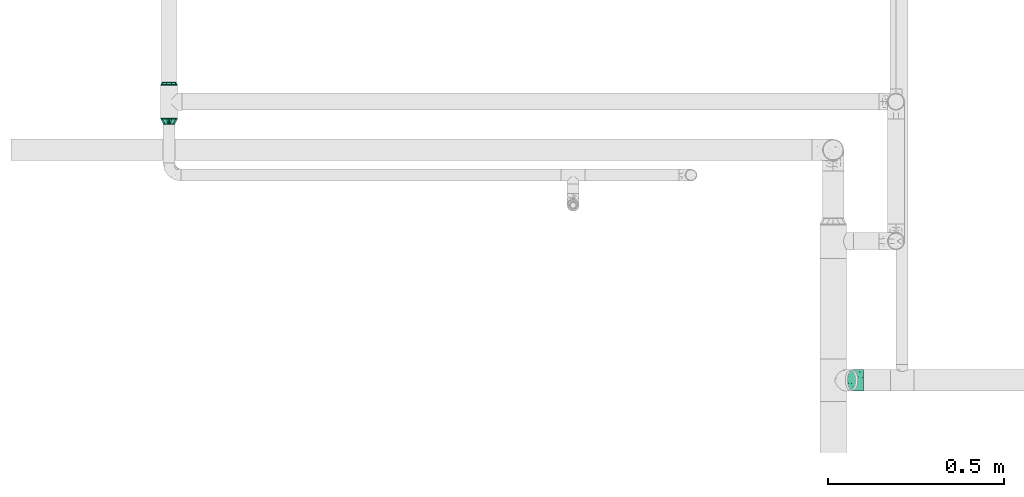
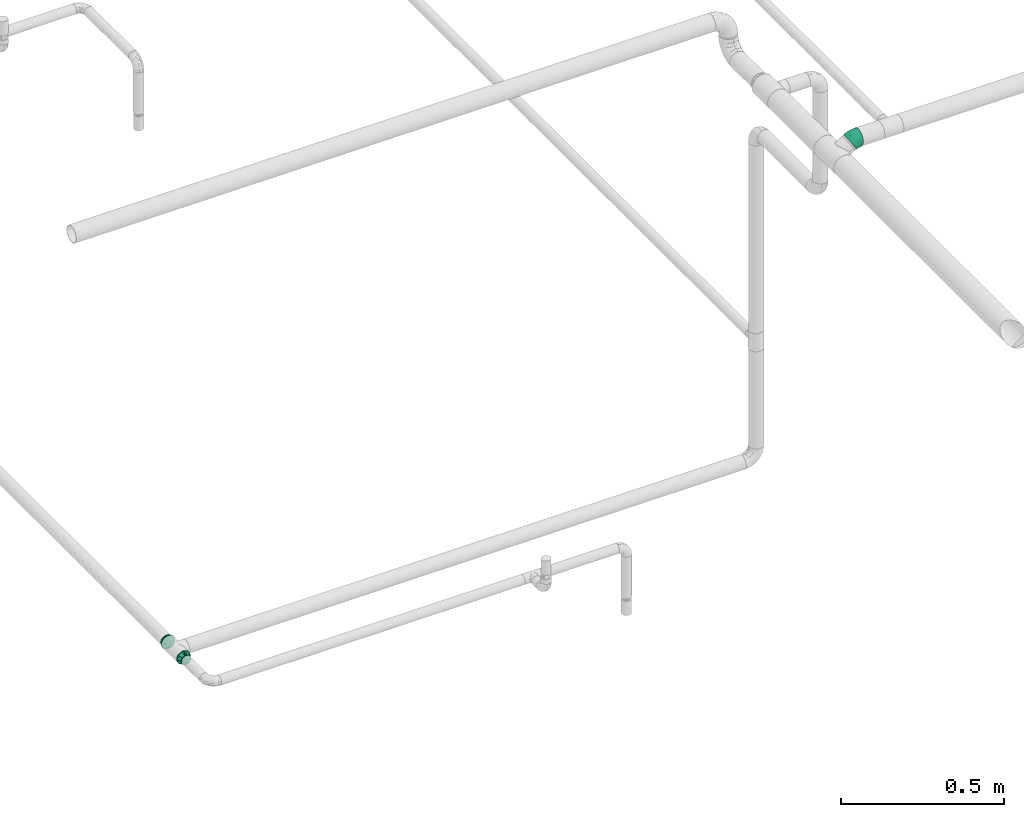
# One storey, part 91 of 95: 3 flow fittings.
"""IFC2X3 building model written with IfcOpenShell, lengths in millimetres."""

from ifc_helpers import new_model, entity, si_unit, converted_unit, derived_unit, direction, frame, origin_with_axes, place, context, subcontext, project, spatial, open_shell, surface_model, source, transform, mapped, type_object, element, save


model = new_model("IFC2X3")

# Units and contexts
model_context = context("Model", 3, precision=0.01, world=frame((0.0, 4.29681676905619e-09, 0.0)), true_north=direction((4.01073788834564e-13, 1.0)))
plan_context = context("Plan", 3, precision=0.01, world=frame((0.0, 4.29681676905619e-09, 0.0)), true_north=direction((4.01073788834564e-13, 1.0)))
body_context = subcontext(model_context, "Body", "Model", "MODEL_VIEW")
ifc_project = project(units=[converted_unit("PLANEANGLEUNIT", "DEGREE", entity("IfcPositiveLengthMeasure", 0.0174532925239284), si_unit("PLANEANGLEUNIT", "RADIAN"), dimensions=[0, 0, 0, 0, 0, 0, 0]), si_unit("AREAUNIT", "SQUARE_METRE"), si_unit("LENGTHUNIT", "METRE", prefix="MILLI"), si_unit("MASSUNIT", "GRAM", prefix="KILO"), si_unit("POWERUNIT", "WATT"), si_unit("PRESSUREUNIT", "PASCAL"), si_unit("FORCEUNIT", "NEWTON", prefix="KILO"), si_unit("ELECTRICVOLTAGEUNIT", "VOLT"), si_unit("ELECTRICCURRENTUNIT", "AMPERE"), si_unit("THERMODYNAMICTEMPERATUREUNIT", "DEGREE_CELSIUS"), si_unit("TIMEUNIT", "SECOND"), si_unit("VOLUMEUNIT", "CUBIC_METRE"), derived_unit("LINEARVELOCITYUNIT", [(si_unit("LENGTHUNIT", "METRE"), 1), (si_unit("TIMEUNIT", "SECOND"), -1)]), derived_unit("VOLUMETRICFLOWRATEUNIT", [(si_unit("VOLUMEUNIT", "CUBIC_METRE"), 1), (si_unit("TIMEUNIT", "SECOND"), -1)]), derived_unit("THERMALTRANSMITTANCEUNIT", [(si_unit("POWERUNIT", "WATT"), 1), (si_unit("THERMODYNAMICTEMPERATUREUNIT", "KELVIN"), -1), (si_unit("AREAUNIT", "SQUARE_METRE"), -1)]), derived_unit("SOUNDPRESSUREUNIT", [(si_unit("PRESSUREUNIT", "PASCAL"), 1)])], contexts=[model_context, plan_context])

# Site, building, storey
site_placement = place(None, frame((0.0, -4.29681676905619e-09, 0.0), z_axis=(0.0, 0.0, 1.0), x_axis=(1.0, 0.0, 0.0)))
site = spatial("IfcSite", under=ifc_project, at=site_placement, CompositionType="ELEMENT")
building_placement = place(site_placement, frame((0.0, 4.29681676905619e-09, 0.0), z_axis=(0.0, 0.0, 1.0), x_axis=(1.0, 0.0, 0.0)))
building = spatial("IfcBuilding", under=site, at=building_placement, Name="mc-building", CompositionType="ELEMENT")
storey_placement = place(building_placement, frame((0.0, 0.0, 210900.0), z_axis=(0.0, 0.0, 1.0), x_axis=(1.0, 0.0, 0.0)))
storey = spatial("IfcBuildingStorey", under=building, at=storey_placement, Name="Nivå F", CompositionType="ELEMENT", Elevation=210900.0)

# Flow fittings
pipe_fitting_type_1 = type_object("IfcPipeFittingType", Name="magi_pipe_fe_elbow_short_001", PredefinedType="BEND")
shared_shape_1 = source(origin_with_axes(), body_context, "Body", "SurfaceModel", [
    surface_model("IfcShellBasedSurfaceModel", [(-16.18413, 15.1, -26.15397), (-16.18413, 7.81634, -29.17096), (-16.18413, 0.0, -30.2), (-16.18413, -29.17096, -7.81634), (-16.18413, -21.35462, 21.35462), (-16.18413, 29.17096, -7.81634), (-16.18413, 26.15397, -15.1), (-16.18413, 21.35462, -21.35462), (-16.18413, -15.1, -26.15397), (-16.18413, -21.35462, -21.35462), (-16.18413, -7.81634, -29.17096), (-16.18413, -26.15397, -15.1), (-16.18413, -30.2, 0.0), (-16.18413, -29.17096, 7.81634), (-16.18413, 30.2, 0.0), (-16.18413, 29.17096, 7.81634), (-16.18413, 26.15397, 15.1), (-16.18413, 7.81634, 29.17096), (-16.18413, 15.1, 26.15397), (-16.18413, 21.35462, 21.35462), (-16.18413, -26.15397, 15.1), (-16.18413, -7.81634, 29.17096), (-16.18413, 0.0, 30.2), (-16.18413, -15.1, 26.15397), (14.01587, 8.09207, -30.2), (10.1077, 14.86121, -29.17096), (6.46587, 21.16905, -26.15397), (0.93889, 30.74206, -15.1), (3.33856, 26.58571, -21.35462), (27.09285, -14.55793, -15.1), (29.11587, -18.0619, 0.0), (28.60135, -17.17073, -7.81634), (3.33856, 26.58571, 21.35462), (6.46587, 21.16905, 26.15397), (10.1077, 14.86121, 29.17096), (0.93889, 30.74206, 15.1), (28.60135, -17.17073, 7.81634), (24.69318, -10.40158, 21.35462), (27.09285, -14.55793, 15.1), (21.56587, -4.98492, 26.15397), (14.01587, 8.09207, 30.2), (17.92404, 1.32292, 29.17096), (5.78126, -21.57597, 17.70222), (-0.87185, -17.35595, 23.59541), (2.61604, -9.7632, 27.60913), (-2.08089, -2.9591, 29.86138), (-0.45314, -26.72255, 10.98482), (0.07401, -28.2045, 5.56004), (11.40781, -25.34383, 5.61212), (-1.40946, 5.26019, 30.0175), (-6.67831, 24.92378, 18.75264), (-5.20194, 19.41389, 24.27321), (12.91423, -13.19239, 23.68525), (-3.3408, 12.72477, 28.11559), (-8.3678, 31.22904, 0.0), (-0.56961, 33.35486, 7.81634), (7.26487, -27.11288, 0.0), (15.20509, -23.82393, 0.0), (-1.25603, -28.23468, 0.0), (15.32196, -22.30983, 11.04614), (-1.08413, 34.24603, 0.0), (0.64461, -2.40571, -29.84433), (-2.58474, 5.01088, -30.01185), (17.92404, 1.32292, -29.17096), (21.56587, -4.98492, -26.15397), (6.50296, -8.44945, -27.67394), (-6.67831, 24.92378, -18.75264), (5.47475, -25.52922, -10.76346), (-5.32129, -28.07324, -9.28381), (-3.19451, -23.25749, -17.98597), (-5.20194, 19.41389, -24.27321), (17.22168, -20.98325, -12.32035), (15.70883, -23.62594, -6.57747), (-0.56961, 33.35486, -7.81634), (24.69318, -10.40158, -21.35462), (11.89901, -19.53142, -17.90294), (-3.46666, -13.74895, -26.30707), (4.36862, -16.30392, -23.46635), (-3.53112, 12.67665, -28.11455), (2.80976, -27.69441, -5.36977)], [open_shell([[[0, 1, 2]], [[2, 3, 4]], [[0, 5, 6]], [[7, 0, 6]], [[2, 4, 0]], [[8, 9, 10]], [[9, 2, 10]], [[11, 3, 9]], [[9, 3, 2]], [[12, 13, 3]], [[5, 0, 4]], [[14, 4, 15]], [[16, 15, 17]], [[17, 18, 19]], [[16, 17, 19]], [[17, 15, 4]], [[20, 4, 13]], [[13, 4, 3]], [[21, 22, 23]], [[17, 4, 23]], [[17, 23, 22]], [[14, 5, 4]], [[24, 25, 26]], [[27, 26, 28]], [[29, 30, 31]], [[32, 33, 34]], [[32, 34, 35]], [[36, 37, 38]], [[39, 40, 41]], [[20, 42, 4]], [[43, 44, 23]], [[23, 4, 43]], [[38, 37, 42]], [[22, 21, 45]], [[21, 23, 44]], [[46, 47, 48]], [[45, 49, 22]], [[22, 49, 17]], [[40, 34, 49]], [[42, 20, 46]], [[39, 41, 44]], [[19, 50, 16]], [[51, 19, 18]], [[52, 42, 37]], [[4, 42, 43]], [[17, 53, 18]], [[54, 15, 55]], [[20, 13, 46]], [[54, 14, 15]], [[55, 15, 16]], [[21, 44, 45]], [[17, 49, 53]], [[51, 53, 33]], [[47, 56, 48]], [[57, 48, 56]], [[45, 40, 49]], [[39, 52, 37]], [[12, 58, 47]], [[45, 41, 40]], [[42, 52, 43]], [[46, 59, 42]], [[32, 35, 50]], [[43, 52, 44]], [[44, 52, 39]], [[30, 36, 57]], [[13, 47, 46]], [[51, 50, 19]], [[35, 55, 16]], [[60, 54, 55]], [[48, 36, 59]], [[42, 59, 38]], [[36, 48, 57]], [[34, 53, 49]], [[33, 32, 51]], [[32, 50, 51]], [[12, 47, 13]], [[16, 50, 35]], [[34, 33, 53]], [[53, 51, 18]], [[46, 48, 59]], [[38, 59, 36]], [[56, 47, 58]], [[41, 45, 44]], [[2, 61, 10]], [[24, 62, 25]], [[63, 64, 65]], [[61, 2, 62]], [[66, 7, 6]], [[67, 68, 69]], [[7, 66, 70]], [[71, 31, 72]], [[73, 6, 5]], [[74, 29, 75]], [[76, 65, 77]], [[1, 78, 62]], [[79, 68, 67]], [[11, 68, 3]], [[79, 3, 68]], [[69, 68, 11]], [[9, 8, 76]], [[25, 78, 26]], [[3, 79, 58]], [[11, 9, 69]], [[65, 76, 10]], [[78, 70, 26]], [[70, 66, 28]], [[77, 69, 9]], [[5, 14, 54]], [[30, 72, 31]], [[54, 60, 73]], [[27, 66, 6]], [[71, 75, 29]], [[73, 27, 6]], [[66, 27, 28]], [[69, 77, 75]], [[25, 62, 78]], [[10, 61, 65]], [[2, 1, 62]], [[7, 70, 0]], [[78, 1, 0]], [[61, 62, 24]], [[63, 65, 61]], [[64, 77, 65]], [[70, 78, 0]], [[77, 64, 74]], [[72, 79, 67]], [[67, 69, 75]], [[79, 72, 56]], [[58, 12, 3]], [[30, 57, 72]], [[74, 75, 77]], [[28, 26, 70]], [[63, 61, 24]], [[72, 57, 56]], [[5, 54, 73]], [[71, 72, 67]], [[58, 79, 56]], [[75, 71, 67]], [[31, 71, 29]], [[9, 76, 77]], [[10, 76, 8]], [[29, 24, 26]], [[27, 73, 26]], [[30, 26, 73]], [[24, 74, 64]], [[64, 63, 24]], [[24, 29, 74]], [[26, 30, 29]], [[73, 36, 30]], [[55, 36, 60]], [[35, 36, 55]], [[34, 36, 35]], [[36, 34, 37]], [[39, 37, 34]], [[40, 39, 34]], [[60, 36, 73]]])]),
])
flow_fitting_1_placement = place(storey_placement, frame((522672.47136, 450838.0, 4315.0), z_axis=(0.0, 1.0, 0.0), x_axis=(0.866025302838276, 0.0, 0.500000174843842)))
element("IfcFlowFitting", 1, at=flow_fitting_1_placement, inside=storey, type_object=pipe_fitting_type_1, Name="magi_pipe_fe_elbow_short_001", context=body_context, shape_type="MappedRepresentation", body=[
    mapped(shared_shape_1, transform((0.0, 0.0, 0.0), scale=1.0)),
])
pipe_fitting_type_2 = type_object("IfcPipeFittingType", Name="magi_pipe_fe_reducer_centric_short_NOR", PredefinedType="TRANSITION")
shared_shape_2 = source(origin_with_axes(), body_context, "Body", "SurfaceModel", [
    surface_model("IfcShellBasedSurfaceModel", [(-2.0, 0.0, 24.2), (-2.0, 6.26342, 23.37541), (-2.0, 12.1, 20.95781), (-2.0, 17.11198, 17.11198), (-2.0, 24.2, 0.0), (-2.0, 20.95781, 12.1), (-2.0, -23.37541, 6.26342), (-2.0, -17.11198, -17.11198), (-2.0, -6.26342, 23.37541), (-2.0, -17.11198, 17.11198), (-2.0, -12.1, 20.95781), (-2.0, -20.95781, 12.1), (-2.0, -24.2, 0.0), (-2.0, 23.37541, 6.26342), (-2.0, 23.37541, -6.26342), (-2.0, 6.26342, -23.37541), (-2.0, 17.11198, -17.11198), (-2.0, 20.95781, -12.1), (-2.0, 12.1, -20.95781), (-2.0, -23.37541, -6.26342), (-2.0, -20.95781, -12.1), (-2.0, -6.26342, -23.37541), (-2.0, -12.1, -20.95781), (-2.0, 0.0, -24.2), (0.0, 24.2, 0.0), (0.0, 6.26342, -23.37541), (0.0, 12.1, -20.95781), (0.0, 23.37541, -6.26342), (0.0, 17.11198, -17.11198), (0.0, 20.95781, -12.1), (0.0, -24.2, 0.0), (0.0, -12.1, -20.95781), (0.0, -6.26342, -23.37541), (0.0, 0.0, -24.2), (0.0, -17.11198, -17.11198), (0.0, -23.37541, -6.26342), (0.0, -20.95781, -12.1), (0.0, 20.95781, 12.1), (0.0, 17.11198, 17.11198), (0.0, 12.1, 20.95781), (0.0, 6.26342, 23.37541), (0.0, 0.0, 24.2), (0.0, -23.37541, 6.26342), (0.0, -17.11198, 17.11198), (0.0, -20.95781, 12.1), (0.0, -6.26342, 23.37541), (0.0, -12.1, 20.95781), (0.0, 23.37541, 6.26342), (0.0, 7.47821, 23.01557), (0.0, 19.57821, 14.2244), (0.0, -7.47821, 23.01557), (0.0, 7.47821, -23.01557), (0.0, 19.57821, -14.2244), (0.0, -7.47821, -23.01557), (0.0, -19.57821, -14.2244), (16.6, 4.37404, -16.32415), (16.6, 8.45, -14.63583), (16.6, 11.9501, -11.9501), (16.6, 0.0, -16.9), (16.6, 16.32415, -4.37404), (16.6, 16.32415, 4.37404), (16.6, 14.63583, -8.45), (16.6, -8.45, 14.63583), (16.6, -8.45, -14.63583), (16.6, -4.37404, -16.32415), (16.6, -11.9501, -11.9501), (16.6, -16.32415, -4.37404), (16.6, -14.63583, -8.45), (16.6, -16.32415, 4.37404), (16.6, 16.9, 0.0), (16.6, 14.63583, 8.45), (16.6, 11.9501, 11.9501), (16.6, 4.37404, 16.32415), (16.6, 8.45, 14.63583), (16.6, 0.0, 16.9), (16.6, -14.63583, 8.45), (16.6, -16.9, 0.0), (16.6, -11.9501, 11.9501), (16.6, -4.37404, 16.32415), (14.6, 11.9501, 11.9501), (14.6, 0.0, 16.9), (14.6, 4.37404, 16.32415), (14.6, 8.45, 14.63583), (14.6, 14.63583, 8.45), (14.6, 16.32415, 4.37404), (14.6, -16.32415, 4.37404), (14.6, -8.45, -14.63583), (14.6, -8.45, 14.63583), (14.6, -14.63583, 8.45), (14.6, -11.9501, 11.9501), (14.6, -4.37404, 16.32415), (14.6, -16.32415, -4.37404), (14.6, -16.9, 0.0), (14.6, 16.32415, -4.37404), (14.6, 11.9501, -11.9501), (14.6, 14.63583, -8.45), (14.6, 8.45, -14.63583), (14.6, 4.37404, -16.32415), (14.6, 0.0, -16.9), (14.6, -11.9501, -11.9501), (14.6, -14.63583, -8.45), (14.6, -4.37404, -16.32415), (14.6, 16.9, 0.0), (0.0, -19.57821, 14.2244), (14.6, -13.18758, -8.96258), (14.6, 14.42505, -5.97505), (0.0, 21.8891, -7.1122), (0.0, 13.52821, -18.61999), (0.0, 16.55321, -16.42219), (14.6, -14.42505, -5.97505), (0.0, -21.8891, -7.1122), (0.0, -20.73366, -10.6683), (14.6, 5.97505, -14.42505), (0.0, 0.0, -23.01557), (14.6, -2.98753, -15.66253), (14.6, 2.98753, -15.66253), (14.6, 8.96258, -13.18758), (14.6, 15.66253, -2.98753), (14.6, -15.66253, -2.98753), (0.0, -13.52821, -18.61999), (14.6, -5.97505, -14.42505), (14.6, -8.96258, -13.18758), (14.6, 13.18758, -8.96258), (14.6, 13.18758, 8.96258), (14.6, -14.42505, 5.97505), (0.0, -21.8891, 7.1122), (0.0, -13.52821, 18.61999), (0.0, -16.55321, 16.42219), (14.6, 14.42505, 5.97505), (0.0, 21.8891, 7.1122), (0.0, 20.73366, 10.6683), (14.6, -5.97505, 14.42505), (0.0, 0.0, 23.01557), (14.6, 2.98753, 15.66253), (14.6, -2.98753, 15.66253), (14.6, -8.96258, 13.18758), (14.6, -15.66253, 2.98753), (14.6, 15.66253, 2.98753), (0.0, 13.52821, 18.61999), (14.6, 5.97505, 14.42505), (14.6, 8.96258, 13.18758), (14.6, -13.18758, 8.96258)], [open_shell([[[0, 1, 2]], [[0, 2, 3]], [[4, 3, 5]], [[6, 0, 7]], [[0, 3, 7]], [[8, 9, 10]], [[8, 0, 9]], [[9, 6, 11]], [[0, 6, 9]], [[6, 7, 12]], [[4, 5, 13]], [[3, 14, 15]], [[16, 14, 17]], [[18, 15, 14]], [[18, 14, 16]], [[15, 7, 3]], [[19, 7, 20]], [[12, 7, 19]], [[15, 21, 22]], [[22, 7, 15]], [[21, 15, 23]], [[14, 3, 4]], [[24, 25, 26]], [[27, 26, 28]], [[27, 24, 26]], [[27, 28, 29]], [[25, 30, 31]], [[25, 32, 33]], [[25, 31, 32]], [[34, 35, 36]], [[34, 31, 30]], [[34, 30, 35]], [[25, 24, 37]], [[37, 38, 25]], [[25, 38, 30]], [[39, 40, 41]], [[39, 41, 38]], [[30, 38, 41]], [[42, 43, 44]], [[45, 42, 30]], [[43, 45, 46]], [[45, 43, 42]], [[30, 41, 45]], [[24, 47, 37]], [[19, 35, 12]], [[20, 36, 19]], [[31, 7, 22]], [[20, 7, 34]], [[32, 22, 21]], [[19, 36, 35]], [[35, 30, 12]], [[32, 31, 22]], [[34, 7, 31]], [[34, 36, 20]], [[33, 32, 21]], [[21, 23, 33]], [[15, 25, 23]], [[18, 26, 15]], [[29, 16, 17]], [[18, 16, 28]], [[27, 17, 14]], [[18, 28, 26]], [[26, 25, 15]], [[24, 27, 14]], [[29, 17, 27]], [[29, 28, 16]], [[4, 24, 14]], [[23, 25, 33]], [[13, 47, 4]], [[5, 37, 13]], [[39, 3, 2]], [[5, 3, 38]], [[40, 2, 1]], [[13, 37, 47]], [[47, 24, 4]], [[40, 39, 2]], [[38, 3, 39]], [[38, 37, 5]], [[41, 40, 1]], [[1, 0, 41]], [[8, 45, 0]], [[10, 46, 8]], [[44, 9, 11]], [[10, 9, 43]], [[42, 11, 6]], [[10, 43, 46]], [[46, 45, 8]], [[30, 42, 6]], [[44, 11, 42]], [[44, 43, 9]], [[12, 30, 6]], [[0, 45, 41]], [[48, 49, 50]], [[49, 51, 30]], [[52, 51, 49]], [[30, 53, 54]], [[30, 51, 53]], [[49, 24, 52]], [[55, 56, 57]], [[58, 55, 57]], [[57, 59, 60]], [[59, 57, 61]], [[57, 62, 63]], [[58, 63, 64]], [[58, 57, 63]], [[65, 66, 67]], [[66, 65, 63]], [[63, 68, 66]], [[60, 59, 69]], [[60, 70, 71]], [[60, 71, 72]], [[60, 72, 62]], [[72, 71, 73]], [[62, 72, 74]], [[68, 62, 75]], [[76, 66, 68]], [[75, 62, 77]], [[62, 68, 63]], [[74, 78, 62]], [[57, 60, 62]], [[79, 80, 81]], [[79, 81, 82]], [[79, 83, 84]], [[79, 84, 80]], [[85, 80, 86]], [[87, 88, 89]], [[88, 87, 90]], [[80, 88, 90]], [[80, 85, 88]], [[85, 91, 92]], [[86, 80, 84]], [[84, 93, 94]], [[94, 93, 95]], [[94, 96, 97]], [[86, 84, 94]], [[97, 98, 94]], [[91, 99, 100]], [[99, 91, 86]], [[86, 98, 101]], [[91, 85, 86]], [[94, 98, 86]], [[93, 84, 102]], [[91, 66, 92]], [[100, 67, 91]], [[63, 99, 86]], [[100, 99, 65]], [[64, 86, 101]], [[91, 67, 66]], [[66, 76, 92]], [[64, 63, 86]], [[65, 99, 63]], [[65, 67, 100]], [[58, 64, 101]], [[101, 98, 58]], [[97, 55, 98]], [[96, 56, 97]], [[61, 94, 95]], [[96, 94, 57]], [[59, 95, 93]], [[96, 57, 56]], [[56, 55, 97]], [[69, 59, 93]], [[61, 95, 59]], [[61, 57, 94]], [[102, 69, 93]], [[98, 55, 58]], [[84, 60, 102]], [[83, 70, 84]], [[73, 79, 82]], [[83, 79, 71]], [[72, 82, 81]], [[84, 70, 60]], [[60, 69, 102]], [[72, 73, 82]], [[71, 79, 73]], [[71, 70, 83]], [[74, 72, 81]], [[81, 80, 74]], [[90, 78, 80]], [[87, 62, 90]], [[75, 89, 88]], [[87, 89, 77]], [[68, 88, 85]], [[87, 77, 62]], [[62, 78, 90]], [[76, 68, 85]], [[75, 88, 68]], [[75, 77, 89]], [[92, 76, 85]], [[80, 78, 74]], [[80, 89, 102]], [[102, 79, 80]], [[89, 99, 102]], [[98, 102, 99]], [[94, 102, 98]], [[99, 89, 92]], [[50, 30, 103]], [[30, 50, 49]], [[54, 99, 104]], [[105, 52, 106]], [[94, 107, 108]], [[109, 110, 111]], [[51, 107, 112]], [[113, 114, 53]], [[113, 115, 98]], [[116, 112, 107]], [[24, 117, 106]], [[51, 115, 113]], [[30, 118, 92]], [[99, 54, 119]], [[119, 120, 121]], [[30, 110, 118]], [[117, 24, 102]], [[52, 105, 122]], [[114, 120, 53]], [[114, 113, 98]], [[51, 112, 115]], [[94, 108, 52]], [[109, 118, 110]], [[54, 104, 111]], [[104, 109, 111]], [[94, 52, 122]], [[120, 119, 53]], [[121, 99, 119]], [[117, 105, 106]], [[107, 94, 116]], [[49, 79, 123]], [[124, 103, 125]], [[89, 126, 127]], [[128, 129, 130]], [[50, 126, 131]], [[132, 133, 48]], [[132, 134, 80]], [[135, 131, 126]], [[30, 136, 125]], [[50, 134, 132]], [[24, 137, 102]], [[79, 49, 138]], [[138, 139, 140]], [[24, 129, 137]], [[136, 30, 92]], [[103, 124, 141]], [[133, 139, 48]], [[133, 132, 80]], [[50, 131, 134]], [[89, 127, 103]], [[128, 137, 129]], [[49, 123, 130]], [[123, 128, 130]], [[89, 103, 141]], [[139, 138, 48]], [[140, 79, 138]], [[136, 124, 125]], [[126, 89, 135]]])]),
])
flow_fitting_2_placement = place(storey_placement, frame((520719.73241, 451579.64949, 2600.0), z_axis=(0.0, 0.0, 1.0), x_axis=(0.0, -1.0, 0.0)))
element("IfcFlowFitting", 2, at=flow_fitting_2_placement, inside=storey, type_object=pipe_fitting_type_2, Name="magi_pipe_fe_reducer_centric_short_NOR", context=body_context, shape_type="MappedRepresentation", body=[
    mapped(shared_shape_2, transform((0.0, 0.0, 0.0), scale=1.0)),
])
shared_shape_3 = source(origin_with_axes(), body_context, "Body", "SurfaceModel", [
    surface_model("IfcShellBasedSurfaceModel", [(8.0, 10.6, -18.35974), (8.0, 0.0, -21.2), (8.0, 5.48696, -20.47763), (8.0, 20.47763, -5.48696), (8.0, 14.99066, -14.99066), (8.0, -21.2, 0.0), (8.0, -14.99066, -14.99066), (8.0, 18.35974, -10.6), (8.0, -10.6, -18.35974), (8.0, -5.48696, -20.47763), (8.0, -18.35974, -10.6), (8.0, -20.47763, -5.48696), (8.0, -18.35974, 10.6), (8.0, 21.2, 0.0), (8.0, 20.47763, 5.48696), (8.0, 18.35974, 10.6), (8.0, 14.99066, 14.99066), (8.0, 0.0, 21.2), (8.0, 10.6, 18.35974), (8.0, 5.48696, 20.47763), (8.0, -14.99066, 14.99066), (8.0, -20.47763, 5.48696), (8.0, -5.48696, 20.47763), (8.0, -10.6, 18.35974), (6.0, 0.0, 21.2), (6.0, 5.48696, 20.47763), (6.0, 10.6, 18.35974), (6.0, 14.99066, 14.99066), (6.0, 18.35974, 10.6), (6.0, 20.47763, 5.48696), (6.0, -21.2, 0.0), (6.0, -14.99066, -14.99066), (6.0, -5.48696, 20.47763), (6.0, -14.99066, 14.99066), (6.0, -10.6, 18.35974), (6.0, -18.35974, 10.6), (6.0, -20.47763, 5.48696), (6.0, 20.47763, -5.48696), (6.0, 10.6, -18.35974), (6.0, 14.99066, -14.99066), (6.0, 18.35974, -10.6), (6.0, 5.48696, -20.47763), (6.0, 0.0, -21.2), (6.0, -18.35974, -10.6), (6.0, -20.47763, -5.48696), (6.0, -10.6, -18.35974), (6.0, -5.48696, -20.47763), (6.0, 21.2, 0.0), (-2.0, 0.0, 24.2), (-2.0, 6.26342, 23.37541), (-2.0, 12.1, 20.95781), (-2.0, 17.11198, 17.11198), (-2.0, 24.2, 0.0), (-2.0, 20.95781, 12.1), (-2.0, -23.37541, 6.26342), (-2.0, -17.11198, -17.11198), (-2.0, -6.26342, 23.37541), (-2.0, -17.11198, 17.11198), (-2.0, -12.1, 20.95781), (-2.0, -20.95781, 12.1), (-2.0, -24.2, 0.0), (-2.0, 23.37541, 6.26342), (-2.0, 23.37541, -6.26342), (-2.0, 6.26342, -23.37541), (-2.0, 17.11198, -17.11198), (-2.0, 20.95781, -12.1), (-2.0, 12.1, -20.95781), (-2.0, -23.37541, -6.26342), (-2.0, -20.95781, -12.1), (-2.0, -6.26342, -23.37541), (-2.0, -12.1, -20.95781), (-2.0, 0.0, -24.2), (0.0, 24.2, 0.0), (0.0, 6.26342, -23.37541), (0.0, 12.1, -20.95781), (0.0, 23.37541, -6.26342), (0.0, 17.11198, -17.11198), (0.0, 20.95781, -12.1), (0.0, -24.2, 0.0), (0.0, -12.1, -20.95781), (0.0, -6.26342, -23.37541), (0.0, 0.0, -24.2), (0.0, -17.11198, -17.11198), (0.0, -23.37541, -6.26342), (0.0, -20.95781, -12.1), (0.0, 20.95781, 12.1), (0.0, 17.11198, 17.11198), (0.0, 12.1, 20.95781), (0.0, 6.26342, 23.37541), (0.0, 0.0, 24.2), (0.0, -23.37541, 6.26342), (0.0, -17.11198, 17.11198), (0.0, -20.95781, 12.1), (0.0, -6.26342, 23.37541), (0.0, -12.1, 20.95781), (0.0, 23.37541, 6.26342), (6.0, -6.55116, 20.1624), (6.0, -17.15116, 12.46105), (6.0, 17.15116, 12.46105), (6.0, 6.55116, 20.1624), (6.0, -6.55116, -20.1624), (6.0, -17.15116, -12.46105), (6.0, 6.55116, -20.1624), (6.0, 17.15116, -12.46105), (0.0, 7.47821, 23.01557), (0.0, 19.57821, 14.2244), (0.0, -7.47821, 23.01557), (0.0, -19.57821, 14.2244), (0.0, 7.47821, -23.01557), (0.0, 19.57821, -14.2244), (0.0, -7.47821, -23.01557), (0.0, -19.57821, -14.2244), (6.0, 11.85116, -16.31172), (0.0, 13.52821, -18.61999), (0.0, 21.8891, -7.1122), (6.0, 19.17558, -6.23052), (0.0, -22.51537, -5.18476), (6.0, 0.0, -20.1624), (0.0, 0.0, -23.01557), (6.0, -19.17558, -6.23052), (0.0, -13.52821, -18.61999), (6.0, -11.85116, -16.31172), (0.0, -21.04679, -9.70458), (6.0, -11.85116, 16.31172), (0.0, -13.52821, 18.61999), (0.0, -21.8891, 7.1122), (6.0, -19.17558, 6.23052), (0.0, 22.51537, 5.18476), (6.0, 0.0, 20.1624), (0.0, 0.0, 23.01557), (6.0, 19.17558, 6.23052), (0.0, 13.52821, 18.61999), (6.0, 11.85116, 16.31172), (0.0, 21.04679, 9.70458)], [open_shell([[[0, 1, 2]], [[3, 0, 4]], [[5, 6, 0]], [[3, 4, 7]], [[3, 5, 0]], [[1, 8, 9]], [[1, 0, 8]], [[10, 5, 11]], [[8, 0, 6]], [[10, 6, 5]], [[12, 3, 13]], [[14, 15, 16]], [[14, 16, 17]], [[18, 19, 17]], [[18, 17, 16]], [[14, 17, 20]], [[5, 12, 21]], [[3, 12, 5]], [[20, 22, 23]], [[12, 14, 20]], [[17, 22, 20]], [[12, 13, 14]], [[24, 25, 26]], [[24, 26, 27]], [[27, 28, 29]], [[27, 29, 24]], [[30, 24, 31]], [[32, 33, 34]], [[32, 24, 33]], [[35, 30, 36]], [[33, 24, 35]], [[24, 30, 35]], [[24, 29, 31]], [[29, 37, 38]], [[39, 37, 40]], [[31, 29, 38]], [[38, 37, 39]], [[41, 42, 38]], [[30, 43, 44]], [[31, 43, 30]], [[45, 42, 46]], [[45, 31, 38]], [[42, 45, 38]], [[37, 29, 47]], [[44, 11, 30]], [[43, 10, 44]], [[8, 31, 45]], [[43, 31, 6]], [[9, 45, 46]], [[44, 10, 11]], [[11, 5, 30]], [[9, 8, 45]], [[6, 31, 8]], [[6, 10, 43]], [[1, 9, 46]], [[46, 42, 1]], [[41, 2, 42]], [[38, 0, 41]], [[7, 39, 40]], [[38, 39, 4]], [[3, 40, 37]], [[38, 4, 0]], [[0, 2, 41]], [[13, 3, 37]], [[7, 40, 3]], [[7, 4, 39]], [[47, 13, 37]], [[42, 2, 1]], [[29, 14, 47]], [[28, 15, 29]], [[18, 27, 26]], [[28, 27, 16]], [[19, 26, 25]], [[29, 15, 14]], [[14, 13, 47]], [[19, 18, 26]], [[16, 27, 18]], [[16, 15, 28]], [[17, 19, 25]], [[25, 24, 17]], [[32, 22, 24]], [[34, 23, 32]], [[12, 33, 35]], [[34, 33, 20]], [[21, 35, 36]], [[34, 20, 23]], [[23, 22, 32]], [[5, 21, 36]], [[12, 35, 21]], [[12, 20, 33]], [[30, 5, 36]], [[24, 22, 17]], [[48, 49, 50]], [[48, 50, 51]], [[52, 51, 53]], [[54, 48, 55]], [[48, 51, 55]], [[56, 57, 58]], [[56, 48, 57]], [[57, 54, 59]], [[48, 54, 57]], [[54, 55, 60]], [[52, 53, 61]], [[51, 62, 63]], [[64, 62, 65]], [[66, 63, 62]], [[66, 62, 64]], [[63, 55, 51]], [[67, 55, 68]], [[60, 55, 67]], [[63, 69, 70]], [[70, 55, 63]], [[69, 63, 71]], [[62, 51, 52]], [[72, 73, 74]], [[75, 74, 76]], [[75, 72, 74]], [[75, 76, 77]], [[73, 78, 79]], [[73, 80, 81]], [[73, 79, 80]], [[82, 83, 84]], [[82, 79, 78]], [[82, 78, 83]], [[73, 72, 85]], [[85, 86, 73]], [[73, 86, 78]], [[87, 88, 89]], [[87, 89, 86]], [[78, 86, 89]], [[90, 91, 92]], [[93, 90, 78]], [[91, 93, 94]], [[93, 91, 90]], [[78, 89, 93]], [[72, 95, 85]], [[67, 83, 60]], [[68, 84, 67]], [[79, 55, 70]], [[68, 55, 82]], [[80, 70, 69]], [[67, 84, 83]], [[83, 78, 60]], [[80, 79, 70]], [[82, 55, 79]], [[82, 84, 68]], [[81, 80, 69]], [[69, 71, 81]], [[63, 73, 71]], [[66, 74, 63]], [[77, 64, 65]], [[66, 64, 76]], [[75, 65, 62]], [[66, 76, 74]], [[74, 73, 63]], [[72, 75, 62]], [[77, 65, 75]], [[77, 76, 64]], [[52, 72, 62]], [[71, 73, 81]], [[61, 95, 52]], [[53, 85, 61]], [[87, 51, 50]], [[53, 51, 86]], [[88, 50, 49]], [[61, 85, 95]], [[95, 72, 52]], [[88, 87, 50]], [[86, 51, 87]], [[86, 85, 53]], [[89, 88, 49]], [[49, 48, 89]], [[56, 93, 48]], [[58, 94, 56]], [[92, 57, 59]], [[58, 57, 91]], [[90, 59, 54]], [[58, 91, 94]], [[94, 93, 56]], [[78, 90, 54]], [[92, 59, 90]], [[92, 91, 57]], [[60, 78, 54]], [[48, 93, 89]], [[96, 97, 98]], [[96, 98, 99]], [[98, 97, 47]], [[97, 100, 47]], [[97, 101, 100]], [[102, 103, 47]], [[47, 100, 102]], [[101, 97, 30]], [[104, 105, 106]], [[105, 107, 106]], [[107, 105, 78]], [[105, 108, 78]], [[109, 108, 105]], [[78, 110, 111]], [[78, 108, 110]], [[105, 72, 109]], [[109, 103, 112]], [[102, 113, 112]], [[113, 102, 108]], [[114, 115, 103]], [[47, 115, 72]], [[113, 109, 112]], [[30, 78, 116]], [[108, 117, 118]], [[118, 117, 100]], [[100, 110, 118]], [[103, 109, 114]], [[72, 115, 114]], [[116, 119, 30]], [[120, 121, 101]], [[100, 121, 110]], [[119, 122, 101]], [[110, 121, 120]], [[101, 111, 120]], [[119, 116, 122]], [[102, 117, 108]], [[122, 111, 101]], [[107, 97, 123]], [[96, 124, 123]], [[124, 96, 106]], [[125, 126, 97]], [[30, 126, 78]], [[124, 107, 123]], [[47, 72, 127]], [[106, 128, 129]], [[129, 128, 99]], [[99, 104, 129]], [[97, 107, 125]], [[78, 126, 125]], [[127, 130, 47]], [[131, 132, 98]], [[99, 132, 104]], [[130, 133, 98]], [[104, 132, 131]], [[98, 105, 131]], [[130, 127, 133]], [[96, 128, 106]], [[133, 105, 98]]])]),
])
flow_fitting_3_placement = place(storey_placement, frame((520719.73241, 451676.44949, 2600.0), z_axis=(0.0, 0.0, 1.0), x_axis=(0.0, 1.0, 0.0)))
element("IfcFlowFitting", 3, at=flow_fitting_3_placement, inside=storey, type_object=pipe_fitting_type_2, Name="magi_pipe_fe_reducer_centric_short_NOR", context=body_context, shape_type="MappedRepresentation", body=[
    mapped(shared_shape_3, transform((0.0, 0.0, 0.0), scale=1.0)),
])

save(model, "model.ifc")
